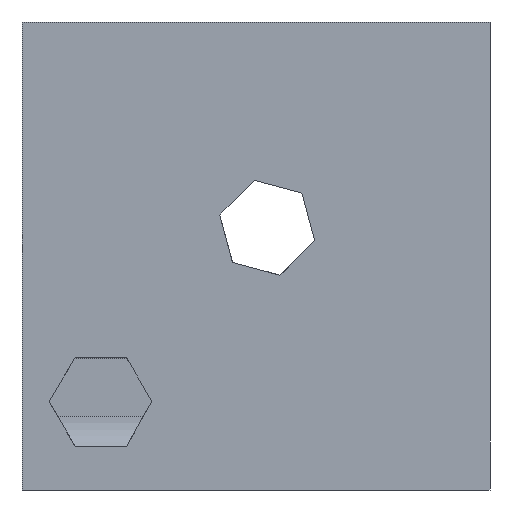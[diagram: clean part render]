
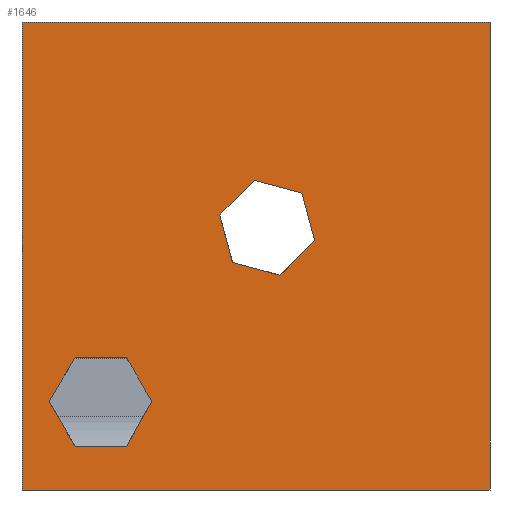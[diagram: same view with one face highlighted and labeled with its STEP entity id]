
A CAD part, front view. The second image highlights one B-rep face of the part: STEP entity #1646.
In plain terms, the highlighted planar face has unit normal (0, -1, 0).
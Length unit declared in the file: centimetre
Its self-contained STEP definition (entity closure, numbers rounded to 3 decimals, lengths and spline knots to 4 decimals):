
#13 = ORIENTED_EDGE ( 'NONE', *, *, #599, .F. ) ;
#49 = VERTEX_POINT ( 'NONE', #777 ) ;
#61 = CARTESIAN_POINT ( 'NONE',  ( 113.4692, 0., 282.8798 ) ) ;
#63 = LINE ( 'NONE', #659, #1209 ) ;
#70 = LINE ( 'NONE', #1235, #1514 ) ;
#76 = ORIENTED_EDGE ( 'NONE', *, *, #274, .F. ) ;
#107 = VECTOR ( 'NONE', #178, 100. ) ;
#130 = CARTESIAN_POINT ( 'NONE',  ( 113.4692, 0., 93.5049 ) ) ;
#135 = EDGE_CURVE ( 'NONE', #1089, #1121, #148, .T. ) ;
#139 = DIRECTION ( 'NONE',  ( 0.258, 0., -0.966 ) ) ;
#145 = LINE ( 'NONE', #870, #1535 ) ;
#148 = LINE ( 'NONE', #1622, #1275 ) ;
#166 = VECTOR ( 'NONE', #962, 100. ) ;
#178 = DIRECTION ( 'NONE',  ( -0.966, 0., 0.259 ) ) ;
#205 = VECTOR ( 'NONE', #1242, 100. ) ;
#206 = CARTESIAN_POINT ( 'NONE',  ( 223.3317, 0., 93.5049 ) ) ;
#272 = EDGE_LOOP ( 'NONE', ( #419, #1132, #586, #817, #865, #1082 ) ) ;
#274 = EDGE_CURVE ( 'NONE', #1121, #956, #145, .T. ) ;
#317 = DIRECTION ( 'NONE',  ( 0.504, 0., -0.864 ) ) ;
#342 = CARTESIAN_POINT ( 'NONE',  ( 496.906, 0., 661.7208 ) ) ;
#377 = EDGE_LOOP ( 'NONE', ( #1417, #1283, #76, #716, #13, #753 ) ) ;
#394 = VERTEX_POINT ( 'NONE', #1813 ) ;
#419 = ORIENTED_EDGE ( 'NONE', *, *, #1733, .F. ) ;
#428 = EDGE_CURVE ( 'NONE', #956, #1038, #827, .T. ) ;
#444 = LINE ( 'NONE', #996, #544 ) ;
#457 = EDGE_CURVE ( 'NONE', #557, #1780, #968, .T. ) ;
#462 = VERTEX_POINT ( 'NONE', #1097 ) ;
#503 = CARTESIAN_POINT ( 'NONE',  ( 277.4727, 0., 189.1048 ) ) ;
#510 = VERTEX_POINT ( 'NONE', #1735 ) ;
#512 = CARTESIAN_POINT ( 'NONE',  ( 0., 0., 0. ) ) ;
#528 = LINE ( 'NONE', #1410, #166 ) ;
#544 = VECTOR ( 'NONE', #1600, 100. ) ;
#552 = EDGE_CURVE ( 'NONE', #807, #553, #673, .T. ) ;
#553 = VERTEX_POINT ( 'NONE', #1091 ) ;
#557 = VERTEX_POINT ( 'NONE', #1102 ) ;
#572 = LINE ( 'NONE', #1899, #1125 ) ;
#586 = ORIENTED_EDGE ( 'NONE', *, *, #675, .F. ) ;
#599 = EDGE_CURVE ( 'NONE', #510, #1089, #843, .T. ) ;
#607 = CARTESIAN_POINT ( 'NONE',  ( 551.1515, 0., 459.0367 ) ) ;
#609 = LINE ( 'NONE', #891, #107 ) ;
#630 = DIRECTION ( 'NONE',  ( -0.258, 0., 0.966 ) ) ;
#631 = VECTOR ( 'NONE', #658, 100. ) ;
#634 = CARTESIAN_POINT ( 'NONE',  ( 598.2322, 0., 634.5388 ) ) ;
#645 = CARTESIAN_POINT ( 'NONE',  ( 0., 0., 1000. ) ) ;
#647 = ORIENTED_EDGE ( 'NONE', *, *, #457, .T. ) ;
#653 = CARTESIAN_POINT ( 'NONE',  ( 496.906, 0., 661.7208 ) ) ;
#658 = DIRECTION ( 'NONE',  ( -0.5, 0., 0.866 ) ) ;
#659 = CARTESIAN_POINT ( 'NONE',  ( 0., 0., 1000. ) ) ;
#663 = EDGE_CURVE ( 'NONE', #1671, #557, #572, .T. ) ;
#673 = LINE ( 'NONE', #653, #1296 ) ;
#675 = EDGE_CURVE ( 'NONE', #836, #462, #444, .T. ) ;
#692 = VECTOR ( 'NONE', #317, 100. ) ;
#716 = ORIENTED_EDGE ( 'NONE', *, *, #135, .F. ) ;
#722 = DIRECTION ( 'NONE',  ( 0., 1., 0. ) ) ;
#753 = ORIENTED_EDGE ( 'NONE', *, *, #955, .F. ) ;
#764 = VECTOR ( 'NONE', #1694, 100. ) ;
#777 = CARTESIAN_POINT ( 'NONE',  ( 449.8253, 0., 486.2187 ) ) ;
#785 = VECTOR ( 'NONE', #630, 100. ) ;
#807 = VERTEX_POINT ( 'NONE', #342 ) ;
#817 = ORIENTED_EDGE ( 'NONE', *, *, #1264, .F. ) ;
#827 = LINE ( 'NONE', #938, #631 ) ;
#836 = VERTEX_POINT ( 'NONE', #607 ) ;
#843 = LINE ( 'NONE', #1344, #692 ) ;
#845 = PLANE ( 'NONE',  #1403 ) ;
#850 = ORIENTED_EDGE ( 'NONE', *, *, #1688, .F. ) ;
#865 = ORIENTED_EDGE ( 'NONE', *, *, #1093, .F. ) ;
#870 = CARTESIAN_POINT ( 'NONE',  ( 223.3317, 0., 93.5049 ) ) ;
#877 = CARTESIAN_POINT ( 'NONE',  ( 1000., 0., 0. ) ) ;
#882 = VECTOR ( 'NONE', #1729, 100. ) ;
#891 = CARTESIAN_POINT ( 'NONE',  ( 598.2322, 0., 634.5388 ) ) ;
#938 = CARTESIAN_POINT ( 'NONE',  ( 277.4727, 0., 189.1048 ) ) ;
#955 = EDGE_CURVE ( 'NONE', #1687, #510, #1885, .T. ) ;
#956 = VERTEX_POINT ( 'NONE', #503 ) ;
#960 = DIRECTION ( 'NONE',  ( 1., 0., 0. ) ) ;
#962 = DIRECTION ( 'NONE',  ( 0.966, 0., -0.259 ) ) ;
#968 = LINE ( 'NONE', #512, #882 ) ;
#996 = CARTESIAN_POINT ( 'NONE',  ( 551.1515, 0., 459.0367 ) ) ;
#1028 = CARTESIAN_POINT ( 'NONE',  ( 223.3317, 0., 282.8798 ) ) ;
#1038 = VERTEX_POINT ( 'NONE', #1028 ) ;
#1082 = ORIENTED_EDGE ( 'NONE', *, *, #552, .F. ) ;
#1089 = VERTEX_POINT ( 'NONE', #130 ) ;
#1091 = CARTESIAN_POINT ( 'NONE',  ( 422.7242, 0., 587.5391 ) ) ;
#1093 = EDGE_CURVE ( 'NONE', #553, #49, #1313, .T. ) ;
#1095 = EDGE_LOOP ( 'NONE', ( #647, #850, #1371, #1808 ) ) ;
#1097 = CARTESIAN_POINT ( 'NONE',  ( 625.3333, 0., 533.2184 ) ) ;
#1102 = CARTESIAN_POINT ( 'NONE',  ( 0., 0., 0. ) ) ;
#1120 = EDGE_CURVE ( 'NONE', #462, #1139, #1424, .T. ) ;
#1121 = VERTEX_POINT ( 'NONE', #206 ) ;
#1125 = VECTOR ( 'NONE', #1743, 100. ) ;
#1132 = ORIENTED_EDGE ( 'NONE', *, *, #1120, .F. ) ;
#1139 = VERTEX_POINT ( 'NONE', #634 ) ;
#1164 = CARTESIAN_POINT ( 'NONE',  ( 0., 0., 1000. ) ) ;
#1204 = EDGE_CURVE ( 'NONE', #1671, #394, #63, .T. ) ;
#1209 = VECTOR ( 'NONE', #960, 100. ) ;
#1235 = CARTESIAN_POINT ( 'NONE',  ( 1000., 0., 1000. ) ) ;
#1242 = DIRECTION ( 'NONE',  ( -0.511, 0., -0.86 ) ) ;
#1252 = DIRECTION ( 'NONE',  ( -0.707, 0., -0.707 ) ) ;
#1264 = EDGE_CURVE ( 'NONE', #49, #836, #528, .T. ) ;
#1270 = LINE ( 'NONE', #1422, #764 ) ;
#1275 = VECTOR ( 'NONE', #1488, 100. ) ;
#1283 = ORIENTED_EDGE ( 'NONE', *, *, #428, .F. ) ;
#1286 = CARTESIAN_POINT ( 'NONE',  ( 625.3333, 0., 533.2184 ) ) ;
#1296 = VECTOR ( 'NONE', #1252, 100. ) ;
#1304 = DIRECTION ( 'NONE',  ( 0., 0., 1. ) ) ;
#1313 = LINE ( 'NONE', #1912, #1620 ) ;
#1344 = CARTESIAN_POINT ( 'NONE',  ( 57.7478, 0., 189.1048 ) ) ;
#1371 = ORIENTED_EDGE ( 'NONE', *, *, #1204, .F. ) ;
#1394 = CARTESIAN_POINT ( 'NONE',  ( 113.4692, 0., 282.8798 ) ) ;
#1403 = AXIS2_PLACEMENT_3D ( 'NONE', #1164, #722, #1304 ) ;
#1410 = CARTESIAN_POINT ( 'NONE',  ( 449.8253, 0., 486.2187 ) ) ;
#1417 = ORIENTED_EDGE ( 'NONE', *, *, #1824, .F. ) ;
#1422 = CARTESIAN_POINT ( 'NONE',  ( 223.3317, 0., 282.8798 ) ) ;
#1424 = LINE ( 'NONE', #1286, #785 ) ;
#1482 = DIRECTION ( 'NONE',  ( 0.493, 0., 0.87 ) ) ;
#1488 = DIRECTION ( 'NONE',  ( 1., 0., 0. ) ) ;
#1514 = VECTOR ( 'NONE', #1830, 100. ) ;
#1535 = VECTOR ( 'NONE', #1482, 100. ) ;
#1600 = DIRECTION ( 'NONE',  ( 0.707, 0., 0.707 ) ) ;
#1618 = FACE_OUTER_BOUND ( 'NONE', #1095, .T. ) ;
#1620 = VECTOR ( 'NONE', #139, 100. ) ;
#1622 = CARTESIAN_POINT ( 'NONE',  ( 113.4692, 0., 93.5049 ) ) ;
#1646 = ADVANCED_FACE ( 'NONE', ( #1745, #1753, #1618 ), #845, .F. ) ;
#1671 = VERTEX_POINT ( 'NONE', #645 ) ;
#1687 = VERTEX_POINT ( 'NONE', #61 ) ;
#1688 = EDGE_CURVE ( 'NONE', #394, #1780, #70, .T. ) ;
#1694 = DIRECTION ( 'NONE',  ( -1., 0., 0. ) ) ;
#1729 = DIRECTION ( 'NONE',  ( 1., 0., 0. ) ) ;
#1733 = EDGE_CURVE ( 'NONE', #1139, #807, #609, .T. ) ;
#1735 = CARTESIAN_POINT ( 'NONE',  ( 57.7478, 0., 189.1048 ) ) ;
#1743 = DIRECTION ( 'NONE',  ( 0., 0., -1. ) ) ;
#1745 = FACE_BOUND ( 'NONE', #377, .T. ) ;
#1753 = FACE_BOUND ( 'NONE', #272, .T. ) ;
#1780 = VERTEX_POINT ( 'NONE', #877 ) ;
#1808 = ORIENTED_EDGE ( 'NONE', *, *, #663, .T. ) ;
#1813 = CARTESIAN_POINT ( 'NONE',  ( 1000., 0., 1000. ) ) ;
#1824 = EDGE_CURVE ( 'NONE', #1038, #1687, #1270, .T. ) ;
#1830 = DIRECTION ( 'NONE',  ( 0., 0., -1. ) ) ;
#1885 = LINE ( 'NONE', #1394, #205 ) ;
#1899 = CARTESIAN_POINT ( 'NONE',  ( 0., 0., 1000. ) ) ;
#1912 = CARTESIAN_POINT ( 'NONE',  ( 422.7242, 0., 587.5391 ) ) ;
